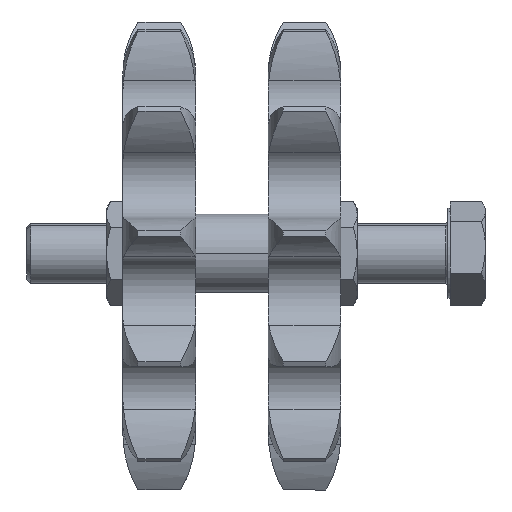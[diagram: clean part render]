
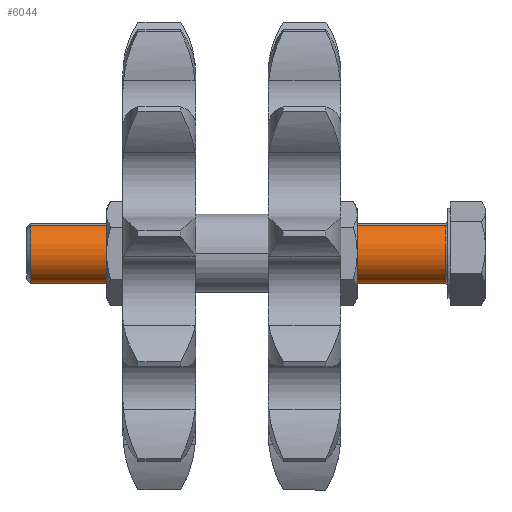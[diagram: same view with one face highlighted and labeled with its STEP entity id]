
A CAD part, top view. The second image highlights one B-rep face of the part: STEP entity #6044.
In plain terms, the highlighted cylindrical face has radius 10 mm (diameter 20 mm), a partial arc.
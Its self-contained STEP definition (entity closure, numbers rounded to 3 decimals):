
#111 = CARTESIAN_POINT ( 'NONE',  ( 0., 0., -10. ) ) ;
#162 = ORIENTED_EDGE ( 'NONE', *, *, #4136, .T. ) ;
#256 = VERTEX_POINT ( 'NONE', #5826 ) ;
#929 = EDGE_CURVE ( 'NONE', #5688, #2191, #955, .T. ) ;
#955 = LINE ( 'NONE', #2783, #2907 ) ;
#998 = FACE_OUTER_BOUND ( 'NONE', #3509, .T. ) ;
#1074 = DIRECTION ( 'NONE',  ( 0., 0., -1. ) ) ;
#1658 = AXIS2_PLACEMENT_3D ( 'NONE', #5717, #2363, #4669 ) ;
#1784 = CIRCLE ( 'NONE', #6161, 10. ) ;
#1820 = CARTESIAN_POINT ( 'NONE',  ( 151.126, 0., 0. ) ) ;
#2015 = CARTESIAN_POINT ( 'NONE',  ( 13.3, 0., 0. ) ) ;
#2148 = EDGE_CURVE ( 'NONE', #256, #2557, #4173, .T. ) ;
#2191 = VERTEX_POINT ( 'NONE', #2631 ) ;
#2363 = DIRECTION ( 'NONE',  ( -1., 0., 0. ) ) ;
#2491 = DIRECTION ( 'NONE',  ( 1., 0., 0. ) ) ;
#2557 = VERTEX_POINT ( 'NONE', #2683 ) ;
#2604 = ORIENTED_EDGE ( 'NONE', *, *, #929, .T. ) ;
#2631 = CARTESIAN_POINT ( 'NONE',  ( 13.3, 0., 10. ) ) ;
#2683 = CARTESIAN_POINT ( 'NONE',  ( 13.3, 0., -10. ) ) ;
#2783 = CARTESIAN_POINT ( 'NONE',  ( 0., 0., 10. ) ) ;
#2907 = VECTOR ( 'NONE', #4254, 1000. ) ;
#3006 = AXIS2_PLACEMENT_3D ( 'NONE', #1820, #4760, #3754 ) ;
#3247 = EDGE_CURVE ( 'NONE', #2191, #2557, #1784, .T. ) ;
#3509 = EDGE_LOOP ( 'NONE', ( #5545, #162, #2604, #5142 ) ) ;
#3754 = DIRECTION ( 'NONE',  ( 0., 0., 1. ) ) ;
#4136 = EDGE_CURVE ( 'NONE', #256, #5688, #5165, .T. ) ;
#4173 = LINE ( 'NONE', #111, #5102 ) ;
#4254 = DIRECTION ( 'NONE',  ( -1., 0., 0. ) ) ;
#4510 = DIRECTION ( 'NONE',  ( -1., 0., 0. ) ) ;
#4669 = DIRECTION ( 'NONE',  ( 0., 0., 1. ) ) ;
#4760 = DIRECTION ( 'NONE',  ( -1., 0., 0. ) ) ;
#5102 = VECTOR ( 'NONE', #4510, 1000. ) ;
#5142 = ORIENTED_EDGE ( 'NONE', *, *, #3247, .T. ) ;
#5165 = CIRCLE ( 'NONE', #3006, 10. ) ;
#5217 = CYLINDRICAL_SURFACE ( 'NONE', #1658, 10. ) ;
#5251 = CARTESIAN_POINT ( 'NONE',  ( 151.126, 0., 10. ) ) ;
#5545 = ORIENTED_EDGE ( 'NONE', *, *, #2148, .F. ) ;
#5688 = VERTEX_POINT ( 'NONE', #5251 ) ;
#5717 = CARTESIAN_POINT ( 'NONE',  ( 0., 0., 0. ) ) ;
#5826 = CARTESIAN_POINT ( 'NONE',  ( 151.126, 0., -10. ) ) ;
#6044 = ADVANCED_FACE ( 'NONE', ( #998 ), #5217, .T. ) ;
#6161 = AXIS2_PLACEMENT_3D ( 'NONE', #2015, #2491, #1074 ) ;
